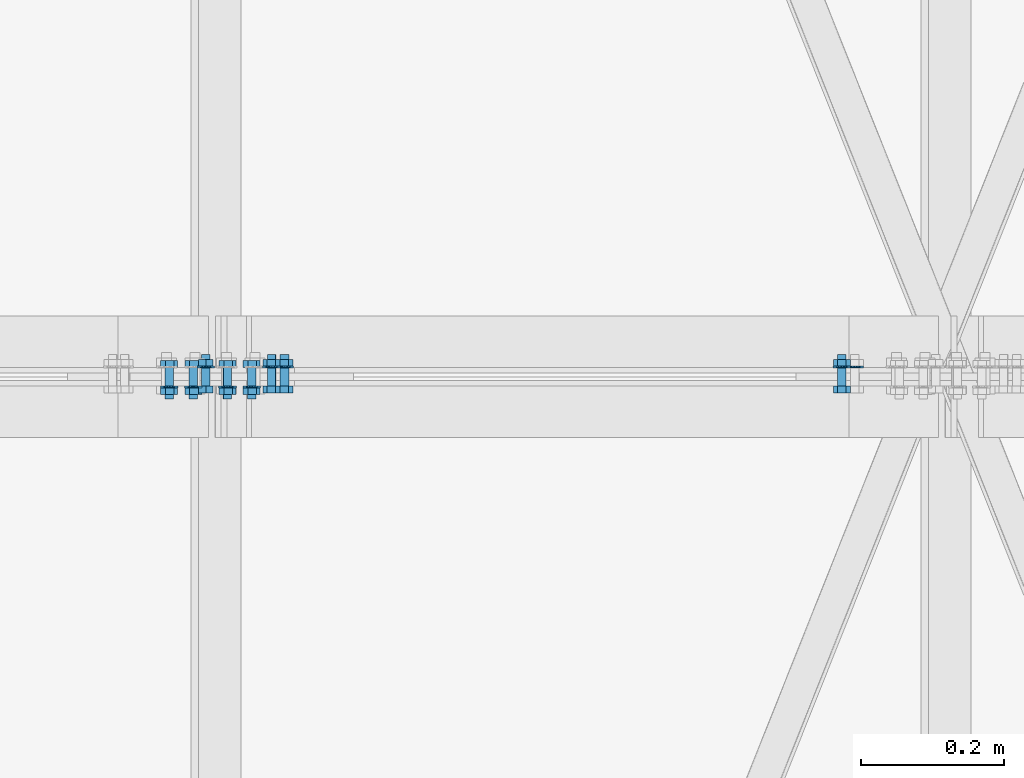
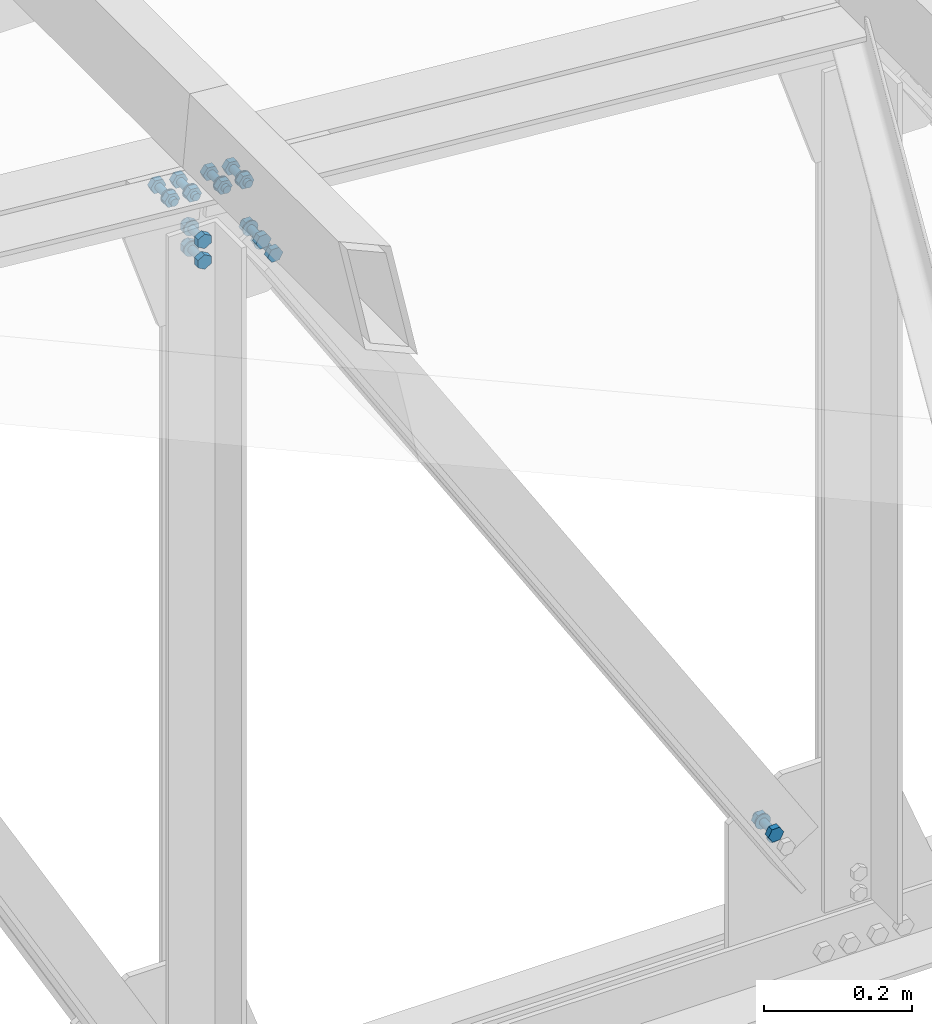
# One storey, part 149 of 251: 37 mechanical fasteners.
"""IFC4 building model written with IfcOpenShell, lengths in metres."""

from ifc_helpers import new_model, si_unit, frame, origin_with_axes, place, context, project, spatial, polyline, outline, extrude, type_object, element, save


model = new_model("IFC4")

# Units and contexts
model_context = context("Model", 3, precision=1e-05, world=origin_with_axes())
ifc_project = project(units=[si_unit("LENGTHUNIT", "METRE"), si_unit("AREAUNIT", "SQUARE_METRE"), si_unit("VOLUMEUNIT", "CUBIC_METRE"), si_unit("MASSUNIT", "GRAM", prefix="KILO"), si_unit("TIMEUNIT", "SECOND"), si_unit("PLANEANGLEUNIT", "RADIAN"), si_unit("SOLIDANGLEUNIT", "STERADIAN"), si_unit("THERMODYNAMICTEMPERATUREUNIT", "DEGREE_CELSIUS")], contexts=[model_context])

# Site, building, storey
placement_1 = place(None, origin_with_axes())
site = spatial("IfcSite", under=ifc_project, at=placement_1, Name="Italia", CompositionType="ELEMENT")
building = spatial("IfcBuilding", under=site, at=placement_1, Name="Deposito", CompositionType="ELEMENT")
storey = spatial("IfcBuildingStorey", under=building, at=placement_1, Name="Storey 0", CompositionType="ELEMENT", Elevation=0.0)

# Mechanical fasteners
mechanical_fastener_type_1 = type_object("IfcMechanicalFastenerType", Name="Reticolare 5", PredefinedType="BOLT")
placement_2 = place(placement_1, origin_with_axes())
mechanical_fastener_1_placement = place(placement_2, origin_with_axes())
element("IfcMechanicalFastener", 1, at=mechanical_fastener_1_placement, inside=storey, type_object=mechanical_fastener_type_1, Name="Reticolare 5", NominalDiameter=0.024, context=model_context, shape_type="SweptSolid", body=[
    extrude(outline(polyline([(0.0, 0.0), (-0.000409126, -0.00310564), (-0.00160789, -0.00600004), (-0.00351524, -0.00848532), (-0.00600052, -0.0103922), (-0.00889397, -0.011591), (-0.0120001, -0.0120001), (-0.0151062, -0.011591), (-0.0179996, -0.0103922), (-0.0204849, -0.00848532), (-0.0223923, -0.00600004), (-0.023591, -0.00310564), (-0.0240002, 0.0), (-0.023591, 0.00310564), (-0.0223923, 0.00600004), (-0.0204849, 0.00848532), (-0.0179996, 0.0103922), (-0.0151062, 0.011591), (-0.0120001, 0.0120001), (-0.00889397, 0.011591), (-0.00600052, 0.0103922), (-0.00351524, 0.00848532), (-0.00160789, 0.00600004), (-0.000409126, 0.00310564), (0.0, 0.0)])), frame((13.9145, 15.015, 5.20248), z_axis=(0.0, -1.0, 0.0), x_axis=(1.0, 0.0, 0.0)), (0.0, 0.0, 1.0), 0.00200081),
])
mechanical_fastener_type_2 = type_object("IfcMechanicalFastenerType", Name="Reticolare 5", PredefinedType="BOLT")
mechanical_fastener_2_placement = place(placement_2, origin_with_axes())
element("IfcMechanicalFastener", 2, at=mechanical_fastener_2_placement, inside=storey, type_object=mechanical_fastener_type_2, Name="Reticolare 5", NominalDiameter=0.0119994, context=model_context, shape_type="SweptSolid", body=[
    extrude(outline(polyline([(0.0, 0.0), (-0.00643444, 0.010129), (-0.000879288, 0.0207663), (0.0111094, 0.0212741), (0.0175438, 0.0111451), (0.0119896, 0.000508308), (0.0, 0.0)])), frame((13.8787, 14.987, 5.22054), z_axis=(0.0, -1.0, 0.0), x_axis=(1.0, 0.0, 0.0)), (0.0, 0.0, 1.0), 0.00960064),
])
mechanical_fastener_type_3 = type_object("IfcMechanicalFastenerType", Name="Reticolare 5", PredefinedType="BOLT")
mechanical_fastener_3_placement = place(placement_2, origin_with_axes())
element("IfcMechanicalFastener", 3, at=mechanical_fastener_3_placement, inside=storey, type_object=mechanical_fastener_type_3, Name="Reticolare 5", NominalDiameter=0.012, context=model_context, shape_type="SweptSolid", body=[
    extrude(outline(polyline([(0.0, 0.0), (-0.000204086, -0.00155306), (-0.000802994, -0.00299978), (-0.00175667, -0.00424242), (-0.00299931, -0.00519609), (-0.00444698, -0.00579548), (-0.00599957, -0.00600004), (-0.00755215, -0.00579548), (-0.00899982, -0.00519609), (-0.0102425, -0.00424242), (-0.0111961, -0.00299978), (-0.011795, -0.00155306), (-0.0119991, 0.0), (-0.011795, 0.00155306), (-0.0111961, 0.00299978), (-0.0102425, 0.00424242), (-0.00899982, 0.00519609), (-0.00755215, 0.00579548), (-0.00599957, 0.00600004), (-0.00444698, 0.00579548), (-0.00299931, 0.00519609), (-0.00175667, 0.00424242), (-0.000802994, 0.00299978), (-0.000204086, 0.00155306), (0.0, 0.0)])), frame((13.8903, 15.031, 5.23117), z_axis=(0.0, -1.0, 0.0), x_axis=(1.0, 0.0, 0.0)), (0.0, 0.0, 1.0), 0.0439997),
])
mechanical_fastener_type_4 = type_object("IfcMechanicalFastenerType", Name="Reticolare 5", PredefinedType="BOLT")
mechanical_fastener_4_placement = place(placement_2, origin_with_axes())
element("IfcMechanicalFastener", 4, at=mechanical_fastener_4_placement, inside=storey, type_object=mechanical_fastener_type_4, Name="Reticolare 5", NominalDiameter=0.0119994, context=model_context, shape_type="SweptSolid", body=[
    extrude(outline(polyline([(0.0, 0.0), (-0.00643444, 0.010129), (-0.000879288, 0.0207663), (0.0111094, 0.0212741), (0.0175438, 0.0111451), (0.0119896, 0.000508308), (0.0, 0.0)])), frame((13.8787, 15.0246, 5.22054), z_axis=(0.0, -1.0, 0.0), x_axis=(1.0, 0.0, 0.0)), (0.0, 0.0, 1.0), 0.00959969),
])
mechanical_fastener_type_5 = type_object("IfcMechanicalFastenerType", Name="Reticolare 5", PredefinedType="BOLT")
mechanical_fastener_5_placement = place(placement_2, origin_with_axes())
element("IfcMechanicalFastener", 5, at=mechanical_fastener_5_placement, inside=storey, type_object=mechanical_fastener_type_5, Name="Reticolare 5", NominalDiameter=0.024, context=model_context, shape_type="SweptSolid", body=[
    extrude(outline(polyline([(0.0, 0.0), (-0.000409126, -0.00310564), (-0.00160789, -0.00600004), (-0.00351524, -0.00848532), (-0.00600052, -0.0103922), (-0.00889397, -0.011591), (-0.0120001, -0.0120001), (-0.0151062, -0.011591), (-0.0179996, -0.0103922), (-0.0204849, -0.00848532), (-0.0223923, -0.00600004), (-0.023591, -0.00310564), (-0.0240002, 0.0), (-0.023591, 0.00310564), (-0.0223923, 0.00600004), (-0.0204849, 0.00848532), (-0.0179996, 0.0103922), (-0.0151062, 0.011591), (-0.0120001, 0.0120001), (-0.00889397, 0.011591), (-0.00600052, 0.0103922), (-0.00351524, 0.00848532), (-0.00160789, 0.00600004), (-0.000409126, 0.00310564), (0.0, 0.0)])), frame((13.8963, 15.015, 5.23117), z_axis=(0.0, -1.0, 0.0), x_axis=(1.0, 0.0, 0.0)), (0.0, 0.0, 1.0), 0.00200081),
])
mechanical_fastener_type_6 = type_object("IfcMechanicalFastenerType", Name="Reticolare 5", PredefinedType="BOLT")
mechanical_fastener_6_placement = place(placement_2, origin_with_axes())
element("IfcMechanicalFastener", 6, at=mechanical_fastener_6_placement, inside=storey, type_object=mechanical_fastener_type_6, Name="Reticolare 5", NominalDiameter=0.0119996, context=model_context, shape_type="SweptSolid", body=[
    extrude(outline(polyline([(0.0, 0.0), (0.0119572, 0.001019), (0.0188179, -0.00882626), (0.0137215, -0.0196905), (0.00176525, -0.0207095), (-0.00509548, -0.0108643), (0.0, 0.0)])), frame((13.0302, 15.013, 6.61092), z_axis=(0.0, 1.0, 0.0), x_axis=(-1.0, 0.0, 0.0)), (0.0, 0.0, 1.0), 0.00960064),
])
mechanical_fastener_type_7 = type_object("IfcMechanicalFastenerType", Name="Reticolare 5", PredefinedType="BOLT")
mechanical_fastener_7_placement = place(placement_2, origin_with_axes())
element("IfcMechanicalFastener", 7, at=mechanical_fastener_7_placement, inside=storey, type_object=mechanical_fastener_type_7, Name="Reticolare 5", NominalDiameter=0.012, context=model_context, shape_type="SweptSolid", body=[
    extrude(outline(polyline([(0.0, 0.0), (-0.000204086, -0.00155306), (-0.000802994, -0.00299978), (-0.00175667, -0.00424242), (-0.00299931, -0.00519609), (-0.00444698, -0.00579548), (-0.00599957, -0.00600004), (-0.00755215, -0.00579548), (-0.00899982, -0.00519609), (-0.0102425, -0.00424242), (-0.0111961, -0.00299978), (-0.011795, -0.00155306), (-0.0119991, 0.0), (-0.011795, 0.00155306), (-0.0111961, 0.00299978), (-0.0102425, 0.00424242), (-0.00899982, 0.00519609), (-0.00755215, 0.00579548), (-0.00599957, 0.00600004), (-0.00444698, 0.00579548), (-0.00299931, 0.00519609), (-0.00175667, 0.00424242), (-0.000802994, 0.00299978), (-0.000204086, 0.00155306), (0.0, 0.0)])), frame((13.0173, 14.969, 6.60108), z_axis=(0.0, 1.0, 0.0), x_axis=(-1.0, 0.0, 0.0)), (0.0, 0.0, 1.0), 0.0439997),
])
mechanical_fastener_type_8 = type_object("IfcMechanicalFastenerType", Name="Reticolare 5", PredefinedType="BOLT")
mechanical_fastener_8_placement = place(placement_2, origin_with_axes())
element("IfcMechanicalFastener", 8, at=mechanical_fastener_8_placement, inside=storey, type_object=mechanical_fastener_type_8, Name="Reticolare 5", NominalDiameter=0.0119996, context=model_context, shape_type="SweptSolid", body=[
    extrude(outline(polyline([(0.0, 0.0), (0.0119572, 0.001019), (0.0188179, -0.00882626), (0.0137215, -0.0196905), (0.00176525, -0.0207095), (-0.00509548, -0.0108643), (0.0, 0.0)])), frame((13.0302, 14.9754, 6.61092), z_axis=(0.0, 1.0, 0.0), x_axis=(-1.0, 0.0, 0.0)), (0.0, 0.0, 1.0), 0.00959969),
])
mechanical_fastener_type_9 = type_object("IfcMechanicalFastenerType", Name="Reticolare 5", PredefinedType="BOLT")
mechanical_fastener_9_placement = place(placement_2, origin_with_axes())
element("IfcMechanicalFastener", 9, at=mechanical_fastener_9_placement, inside=storey, type_object=mechanical_fastener_type_9, Name="Reticolare 5", NominalDiameter=0.024, context=model_context, shape_type="SweptSolid", body=[
    extrude(outline(polyline([(0.0, 0.0), (-0.000409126, -0.00310564), (-0.00160789, -0.00600004), (-0.00351524, -0.00848532), (-0.00600052, -0.0103922), (-0.00889397, -0.011591), (-0.0120001, -0.0120001), (-0.0151062, -0.011591), (-0.0179996, -0.0103922), (-0.0204849, -0.00848532), (-0.0223923, -0.00600004), (-0.023591, -0.00310564), (-0.0240002, 0.0), (-0.023591, 0.00310564), (-0.0223923, 0.00600004), (-0.0204849, 0.00848532), (-0.0179996, 0.0103922), (-0.0151062, 0.011591), (-0.0120001, 0.0120001), (-0.00889397, 0.011591), (-0.00600052, 0.0103922), (-0.00351524, 0.00848532), (-0.00160789, 0.00600004), (-0.000409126, 0.00310564), (0.0, 0.0)])), frame((13.0113, 14.985, 6.60108), z_axis=(0.0, 1.0, 0.0), x_axis=(-1.0, 0.0, 0.0)), (0.0, 0.0, 1.0), 0.00200081),
])
mechanical_fastener_type_10 = type_object("IfcMechanicalFastenerType", Name="Reticolare 5", PredefinedType="BOLT")
mechanical_fastener_10_placement = place(placement_2, origin_with_axes())
element("IfcMechanicalFastener", 10, at=mechanical_fastener_10_placement, inside=storey, type_object=mechanical_fastener_type_10, Name="Reticolare 5", NominalDiameter=0.0119996, context=model_context, shape_type="SweptSolid", body=[
    extrude(outline(polyline([(0.0, 0.0), (0.0119572, 0.001019), (0.0188179, -0.00882626), (0.0137215, -0.0196905), (0.00176525, -0.0207095), (-0.00509548, -0.0108643), (0.0, 0.0)])), frame((13.0641, 15.013, 6.60803), z_axis=(0.0, 1.0, 0.0), x_axis=(-1.0, 0.0, 0.0)), (0.0, 0.0, 1.0), 0.00960064),
])
mechanical_fastener_type_11 = type_object("IfcMechanicalFastenerType", Name="Reticolare 5", PredefinedType="BOLT")
mechanical_fastener_11_placement = place(placement_2, origin_with_axes())
element("IfcMechanicalFastener", 11, at=mechanical_fastener_11_placement, inside=storey, type_object=mechanical_fastener_type_11, Name="Reticolare 5", NominalDiameter=0.012, context=model_context, shape_type="SweptSolid", body=[
    extrude(outline(polyline([(0.0, 0.0), (-0.000204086, -0.00155306), (-0.000802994, -0.00299978), (-0.00175667, -0.00424242), (-0.00299931, -0.00519609), (-0.00444698, -0.00579548), (-0.00599957, -0.00600004), (-0.00755215, -0.00579548), (-0.00899982, -0.00519609), (-0.0102425, -0.00424242), (-0.0111961, -0.00299978), (-0.011795, -0.00155306), (-0.0119991, 0.0), (-0.011795, 0.00155306), (-0.0111961, 0.00299978), (-0.0102425, 0.00424242), (-0.00899982, 0.00519609), (-0.00755215, 0.00579548), (-0.00599957, 0.00600004), (-0.00444698, 0.00579548), (-0.00299931, 0.00519609), (-0.00175667, 0.00424242), (-0.000802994, 0.00299978), (-0.000204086, 0.00155306), (0.0, 0.0)])), frame((13.0512, 14.969, 6.59819), z_axis=(0.0, 1.0, 0.0), x_axis=(-1.0, 0.0, 0.0)), (0.0, 0.0, 1.0), 0.0439997),
])
mechanical_fastener_type_12 = type_object("IfcMechanicalFastenerType", Name="Reticolare 5", PredefinedType="BOLT")
mechanical_fastener_12_placement = place(placement_2, origin_with_axes())
element("IfcMechanicalFastener", 12, at=mechanical_fastener_12_placement, inside=storey, type_object=mechanical_fastener_type_12, Name="Reticolare 5", NominalDiameter=0.0119996, context=model_context, shape_type="SweptSolid", body=[
    extrude(outline(polyline([(0.0, 0.0), (0.0119572, 0.001019), (0.0188179, -0.00882626), (0.0137215, -0.0196905), (0.00176525, -0.0207095), (-0.00509548, -0.0108643), (0.0, 0.0)])), frame((13.0641, 14.9754, 6.60803), z_axis=(0.0, 1.0, 0.0), x_axis=(-1.0, 0.0, 0.0)), (0.0, 0.0, 1.0), 0.00959969),
])
mechanical_fastener_type_13 = type_object("IfcMechanicalFastenerType", Name="Reticolare 5", PredefinedType="BOLT")
mechanical_fastener_13_placement = place(placement_2, origin_with_axes())
element("IfcMechanicalFastener", 13, at=mechanical_fastener_13_placement, inside=storey, type_object=mechanical_fastener_type_13, Name="Reticolare 5", NominalDiameter=0.024, context=model_context, shape_type="SweptSolid", body=[
    extrude(outline(polyline([(0.0, 0.0), (-0.000409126, -0.00310564), (-0.00160789, -0.00600004), (-0.00351524, -0.00848532), (-0.00600052, -0.0103922), (-0.00889397, -0.011591), (-0.0120001, -0.0120001), (-0.0151062, -0.011591), (-0.0179996, -0.0103922), (-0.0204849, -0.00848532), (-0.0223923, -0.00600004), (-0.023591, -0.00310564), (-0.0240002, 0.0), (-0.023591, 0.00310564), (-0.0223923, 0.00600004), (-0.0204849, 0.00848532), (-0.0179996, 0.0103922), (-0.0151062, 0.011591), (-0.0120001, 0.0120001), (-0.00889397, 0.011591), (-0.00600052, 0.0103922), (-0.00351524, 0.00848532), (-0.00160789, 0.00600004), (-0.000409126, 0.00310564), (0.0, 0.0)])), frame((13.0452, 14.985, 6.59819), z_axis=(0.0, 1.0, 0.0), x_axis=(-1.0, 0.0, 0.0)), (0.0, 0.0, 1.0), 0.00200081),
])
mechanical_fastener_type_14 = type_object("IfcMechanicalFastenerType", Name="Reticolare 5", PredefinedType="BOLT")
mechanical_fastener_14_placement = place(placement_2, origin_with_axes())
element("IfcMechanicalFastener", 14, at=mechanical_fastener_14_placement, inside=storey, type_object=mechanical_fastener_type_14, Name="Reticolare 5", NominalDiameter=0.0119996, context=model_context, shape_type="SweptSolid", body=[
    extrude(outline(polyline([(0.0, 0.0), (0.0119524, 0.00107431), (0.018858, -0.00873947), (0.013813, -0.0196271), (0.00186157, -0.0207014), (-0.00504494, -0.0108881), (0.0, 0.0)])), frame((12.9824, 15.013, 6.61508), z_axis=(0.0, 1.0, 0.0), x_axis=(-1.0, 0.0, 0.0)), (0.0, 0.0, 1.0), 0.00960064),
])
mechanical_fastener_type_15 = type_object("IfcMechanicalFastenerType", Name="Reticolare 5", PredefinedType="BOLT")
mechanical_fastener_15_placement = place(placement_2, origin_with_axes())
element("IfcMechanicalFastener", 15, at=mechanical_fastener_15_placement, inside=storey, type_object=mechanical_fastener_type_15, Name="Reticolare 5", NominalDiameter=0.012, context=model_context, shape_type="SweptSolid", body=[
    extrude(outline(polyline([(0.0, 0.0), (-0.000204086, -0.00155306), (-0.000802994, -0.00299978), (-0.00175667, -0.00424242), (-0.00299931, -0.00519609), (-0.00444698, -0.00579548), (-0.00599957, -0.00600004), (-0.00755215, -0.00579548), (-0.00899982, -0.00519609), (-0.0102425, -0.00424242), (-0.0111961, -0.00299978), (-0.011795, -0.00155306), (-0.0119991, 0.0), (-0.011795, 0.00155306), (-0.0111961, 0.00299978), (-0.0102425, 0.00424242), (-0.00899982, 0.00519609), (-0.00755215, 0.00579548), (-0.00599957, 0.00600004), (-0.00444698, 0.00579548), (-0.00299931, 0.00519609), (-0.00175667, 0.00424242), (-0.000802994, 0.00299978), (-0.000204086, 0.00155306), (0.0, 0.0)])), frame((12.9694, 14.969, 6.60527), z_axis=(0.0, 1.0, 0.0), x_axis=(-1.0, 0.0, 0.0)), (0.0, 0.0, 1.0), 0.0439997),
])
mechanical_fastener_type_16 = type_object("IfcMechanicalFastenerType", Name="Reticolare 5", PredefinedType="BOLT")
mechanical_fastener_16_placement = place(placement_2, origin_with_axes())
element("IfcMechanicalFastener", 16, at=mechanical_fastener_16_placement, inside=storey, type_object=mechanical_fastener_type_16, Name="Reticolare 5", NominalDiameter=0.0119996, context=model_context, shape_type="SweptSolid", body=[
    extrude(outline(polyline([(0.0, 0.0), (0.0119524, 0.00107431), (0.018858, -0.00873947), (0.013813, -0.0196271), (0.00186157, -0.0207014), (-0.00504494, -0.0108881), (0.0, 0.0)])), frame((12.9824, 14.9754, 6.61508), z_axis=(0.0, 1.0, 0.0), x_axis=(-1.0, 0.0, 0.0)), (0.0, 0.0, 1.0), 0.00959969),
])
mechanical_fastener_type_17 = type_object("IfcMechanicalFastenerType", Name="Reticolare 5", PredefinedType="BOLT")
mechanical_fastener_17_placement = place(placement_2, origin_with_axes())
element("IfcMechanicalFastener", 17, at=mechanical_fastener_17_placement, inside=storey, type_object=mechanical_fastener_type_17, Name="Reticolare 5", NominalDiameter=0.024, context=model_context, shape_type="SweptSolid", body=[
    extrude(outline(polyline([(0.0, 0.0), (-0.000409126, -0.00310564), (-0.00160789, -0.00600004), (-0.00351524, -0.00848532), (-0.00600052, -0.0103922), (-0.00889397, -0.011591), (-0.0120001, -0.0120001), (-0.0151062, -0.011591), (-0.0179996, -0.0103922), (-0.0204849, -0.00848532), (-0.0223923, -0.00600004), (-0.023591, -0.00310564), (-0.0240002, 0.0), (-0.023591, 0.00310564), (-0.0223923, 0.00600004), (-0.0204849, 0.00848532), (-0.0179996, 0.0103922), (-0.0151062, 0.011591), (-0.0120001, 0.0120001), (-0.00889397, 0.011591), (-0.00600052, 0.0103922), (-0.00351524, 0.00848532), (-0.00160789, 0.00600004), (-0.000409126, 0.00310564), (0.0, 0.0)])), frame((12.9634, 14.985, 6.60527), z_axis=(0.0, 1.0, 0.0), x_axis=(-1.0, 0.0, 0.0)), (0.0, 0.0, 1.0), 0.00200081),
])
mechanical_fastener_type_18 = type_object("IfcMechanicalFastenerType", Name="Reticolare 5", PredefinedType="BOLT")
mechanical_fastener_18_placement = place(placement_2, origin_with_axes())
element("IfcMechanicalFastener", 18, at=mechanical_fastener_18_placement, inside=storey, type_object=mechanical_fastener_type_18, Name="Reticolare 5", NominalDiameter=0.0119996, context=model_context, shape_type="SweptSolid", body=[
    extrude(outline(polyline([(0.0, 0.0), (0.0119514, 0.00107479), (0.018858, -0.00873899), (0.0138121, -0.0196266), (0.00186062, -0.0207009), (-0.00504589, -0.0108876), (0.0, 0.0)])), frame((12.9485, 15.013, 6.61813), z_axis=(0.0, 1.0, 0.0), x_axis=(-1.0, 0.0, 0.0)), (0.0, 0.0, 1.0), 0.00960064),
])
mechanical_fastener_type_19 = type_object("IfcMechanicalFastenerType", Name="Reticolare 5", PredefinedType="BOLT")
mechanical_fastener_19_placement = place(placement_2, origin_with_axes())
element("IfcMechanicalFastener", 19, at=mechanical_fastener_19_placement, inside=storey, type_object=mechanical_fastener_type_19, Name="Reticolare 5", NominalDiameter=0.012, context=model_context, shape_type="SweptSolid", body=[
    extrude(outline(polyline([(0.0, 0.0), (-0.000204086, -0.00155306), (-0.000802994, -0.00299978), (-0.00175667, -0.00424242), (-0.00299931, -0.00519609), (-0.00444698, -0.00579548), (-0.00599957, -0.00600004), (-0.00755215, -0.00579548), (-0.00899982, -0.00519609), (-0.0102425, -0.00424242), (-0.0111961, -0.00299978), (-0.011795, -0.00155306), (-0.0119991, 0.0), (-0.011795, 0.00155306), (-0.0111961, 0.00299978), (-0.0102425, 0.00424242), (-0.00899982, 0.00519609), (-0.00755215, 0.00579548), (-0.00599957, 0.00600004), (-0.00444698, 0.00579548), (-0.00299931, 0.00519609), (-0.00175667, 0.00424242), (-0.000802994, 0.00299978), (-0.000204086, 0.00155306), (0.0, 0.0)])), frame((12.9356, 14.969, 6.60831), z_axis=(0.0, 1.0, 0.0), x_axis=(-1.0, 0.0, 0.0)), (0.0, 0.0, 1.0), 0.0439997),
])
mechanical_fastener_type_20 = type_object("IfcMechanicalFastenerType", Name="Reticolare 5", PredefinedType="BOLT")
mechanical_fastener_20_placement = place(placement_2, origin_with_axes())
element("IfcMechanicalFastener", 20, at=mechanical_fastener_20_placement, inside=storey, type_object=mechanical_fastener_type_20, Name="Reticolare 5", NominalDiameter=0.0119996, context=model_context, shape_type="SweptSolid", body=[
    extrude(outline(polyline([(0.0, 0.0), (0.0119514, 0.00107479), (0.018858, -0.00873899), (0.0138121, -0.0196266), (0.00186062, -0.0207009), (-0.00504589, -0.0108876), (0.0, 0.0)])), frame((12.9485, 14.9754, 6.61813), z_axis=(0.0, 1.0, 0.0), x_axis=(-1.0, 0.0, 0.0)), (0.0, 0.0, 1.0), 0.00959969),
])
mechanical_fastener_type_21 = type_object("IfcMechanicalFastenerType", Name="Reticolare 5", PredefinedType="BOLT")
mechanical_fastener_21_placement = place(placement_2, origin_with_axes())
element("IfcMechanicalFastener", 21, at=mechanical_fastener_21_placement, inside=storey, type_object=mechanical_fastener_type_21, Name="Reticolare 5", NominalDiameter=0.024, context=model_context, shape_type="SweptSolid", body=[
    extrude(outline(polyline([(0.0, 0.0), (-0.000409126, -0.00310564), (-0.00160789, -0.00600004), (-0.00351524, -0.00848532), (-0.00600052, -0.0103922), (-0.00889397, -0.011591), (-0.0120001, -0.0120001), (-0.0151062, -0.011591), (-0.0179996, -0.0103922), (-0.0204849, -0.00848532), (-0.0223923, -0.00600004), (-0.023591, -0.00310564), (-0.0240002, 0.0), (-0.023591, 0.00310564), (-0.0223923, 0.00600004), (-0.0204849, 0.00848532), (-0.0179996, 0.0103922), (-0.0151062, 0.011591), (-0.0120001, 0.0120001), (-0.00889397, 0.011591), (-0.00600052, 0.0103922), (-0.00351524, 0.00848532), (-0.00160789, 0.00600004), (-0.000409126, 0.00310564), (0.0, 0.0)])), frame((12.9296, 14.985, 6.60831), z_axis=(0.0, 1.0, 0.0), x_axis=(-1.0, 0.0, 0.0)), (0.0, 0.0, 1.0), 0.00200081),
])
mechanical_fastener_type_22 = type_object("IfcMechanicalFastenerType", Name="Reticolare 5", PredefinedType="BOLT")
mechanical_fastener_22_placement = place(placement_2, origin_with_axes())
element("IfcMechanicalFastener", 22, at=mechanical_fastener_22_placement, inside=storey, type_object=mechanical_fastener_type_22, Name="Reticolare 5", NominalDiameter=0.0119999, context=model_context, shape_type="SweptSolid", body=[
    extrude(outline(polyline([(0.0, 0.0), (0.0, -0.0120001), (-0.0103922, -0.0180001), (-0.0207844, -0.0120001), (-0.0207844, 0.0), (-0.0103922, 0.00600004), (0.0, 0.0)])), frame((13.0034, 14.987, 6.52739), z_axis=(0.0, -1.0, 0.0), x_axis=(1.0, 0.0, 0.0)), (0.0, 0.0, 1.0), 0.00960064),
])
mechanical_fastener_type_23 = type_object("IfcMechanicalFastenerType", Name="Reticolare 5", PredefinedType="BOLT")
mechanical_fastener_23_placement = place(placement_2, origin_with_axes())
element("IfcMechanicalFastener", 23, at=mechanical_fastener_23_placement, inside=storey, type_object=mechanical_fastener_type_23, Name="Reticolare 5", NominalDiameter=0.012, context=model_context, shape_type="SweptSolid", body=[
    extrude(outline(polyline([(0.0, 0.0), (-0.000204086, -0.00155306), (-0.000802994, -0.00299978), (-0.00175667, -0.00424242), (-0.00299931, -0.00519609), (-0.00444698, -0.00579548), (-0.00599957, -0.00600004), (-0.00755215, -0.00579548), (-0.00899982, -0.00519609), (-0.0102425, -0.00424242), (-0.0111961, -0.00299978), (-0.011795, -0.00155306), (-0.0119991, 0.0), (-0.011795, 0.00155306), (-0.0111961, 0.00299978), (-0.0102425, 0.00424242), (-0.00899982, 0.00519609), (-0.00755215, 0.00579548), (-0.00599957, 0.00600004), (-0.00444698, 0.00579548), (-0.00299931, 0.00519609), (-0.00175667, 0.00424242), (-0.000802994, 0.00299978), (-0.000204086, 0.00155306), (0.0, 0.0)])), frame((12.999, 15.031, 6.52139), z_axis=(0.0, -1.0, 0.0), x_axis=(1.0, 0.0, 0.0)), (0.0, 0.0, 1.0), 0.0439997),
])
mechanical_fastener_type_24 = type_object("IfcMechanicalFastenerType", Name="Reticolare 5", PredefinedType="BOLT")
mechanical_fastener_24_placement = place(placement_2, origin_with_axes())
element("IfcMechanicalFastener", 24, at=mechanical_fastener_24_placement, inside=storey, type_object=mechanical_fastener_type_24, Name="Reticolare 5", NominalDiameter=0.0119999, context=model_context, shape_type="SweptSolid", body=[
    extrude(outline(polyline([(0.0, 0.0), (0.0, -0.0120001), (-0.0103922, -0.0180001), (-0.0207844, -0.0120001), (-0.0207844, 0.0), (-0.0103922, 0.00600004), (0.0, 0.0)])), frame((13.0034, 15.0246, 6.52739), z_axis=(0.0, -1.0, 0.0), x_axis=(1.0, 0.0, 0.0)), (0.0, 0.0, 1.0), 0.00959969),
])
mechanical_fastener_type_25 = type_object("IfcMechanicalFastenerType", Name="Reticolare 5", PredefinedType="BOLT")
mechanical_fastener_25_placement = place(placement_2, origin_with_axes())
element("IfcMechanicalFastener", 25, at=mechanical_fastener_25_placement, inside=storey, type_object=mechanical_fastener_type_25, Name="Reticolare 5", NominalDiameter=0.024, context=model_context, shape_type="SweptSolid", body=[
    extrude(outline(polyline([(0.0, 0.0), (-0.000409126, -0.00310564), (-0.00160789, -0.00600004), (-0.00351524, -0.00848532), (-0.00600052, -0.0103922), (-0.00889397, -0.011591), (-0.0120001, -0.0120001), (-0.0151062, -0.011591), (-0.0179996, -0.0103922), (-0.0204849, -0.00848532), (-0.0223923, -0.00600004), (-0.023591, -0.00310564), (-0.0240002, 0.0), (-0.023591, 0.00310564), (-0.0223923, 0.00600004), (-0.0204849, 0.00848532), (-0.0179996, 0.0103922), (-0.0151062, 0.011591), (-0.0120001, 0.0120001), (-0.00889397, 0.011591), (-0.00600052, 0.0103922), (-0.00351524, 0.00848532), (-0.00160789, 0.00600004), (-0.000409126, 0.00310564), (0.0, 0.0)])), frame((13.005, 15.015, 6.52139), z_axis=(0.0, -1.0, 0.0), x_axis=(1.0, 0.0, 0.0)), (0.0, 0.0, 1.0), 0.00200081),
])
mechanical_fastener_type_26 = type_object("IfcMechanicalFastenerType", Name="Reticolare 5", PredefinedType="BOLT")
mechanical_fastener_26_placement = place(placement_2, origin_with_axes())
element("IfcMechanicalFastener", 26, at=mechanical_fastener_26_placement, inside=storey, type_object=mechanical_fastener_type_26, Name="Reticolare 5", NominalDiameter=0.0119999, context=model_context, shape_type="SweptSolid", body=[
    extrude(outline(polyline([(0.0, 0.0), (0.0, -0.0120001), (-0.0103922, -0.0180001), (-0.0207844, -0.0120001), (-0.0207844, 0.0), (-0.0103922, 0.00600004), (0.0, 0.0)])), frame((13.0034, 14.987, 6.49339), z_axis=(0.0, -1.0, 0.0), x_axis=(1.0, 0.0, 0.0)), (0.0, 0.0, 1.0), 0.00960064),
])
mechanical_fastener_type_27 = type_object("IfcMechanicalFastenerType", Name="Reticolare 5", PredefinedType="BOLT")
mechanical_fastener_27_placement = place(placement_2, origin_with_axes())
element("IfcMechanicalFastener", 27, at=mechanical_fastener_27_placement, inside=storey, type_object=mechanical_fastener_type_27, Name="Reticolare 5", NominalDiameter=0.012, context=model_context, shape_type="SweptSolid", body=[
    extrude(outline(polyline([(0.0, 0.0), (-0.000204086, -0.00155306), (-0.000802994, -0.00299978), (-0.00175667, -0.00424242), (-0.00299931, -0.00519609), (-0.00444698, -0.00579548), (-0.00599957, -0.00600004), (-0.00755215, -0.00579548), (-0.00899982, -0.00519609), (-0.0102425, -0.00424242), (-0.0111961, -0.00299978), (-0.011795, -0.00155306), (-0.0119991, 0.0), (-0.011795, 0.00155306), (-0.0111961, 0.00299978), (-0.0102425, 0.00424242), (-0.00899982, 0.00519609), (-0.00755215, 0.00579548), (-0.00599957, 0.00600004), (-0.00444698, 0.00579548), (-0.00299931, 0.00519609), (-0.00175667, 0.00424242), (-0.000802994, 0.00299978), (-0.000204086, 0.00155306), (0.0, 0.0)])), frame((12.999, 15.031, 6.48739), z_axis=(0.0, -1.0, 0.0), x_axis=(1.0, 0.0, 0.0)), (0.0, 0.0, 1.0), 0.0439997),
])
mechanical_fastener_type_28 = type_object("IfcMechanicalFastenerType", Name="Reticolare 5", PredefinedType="BOLT")
mechanical_fastener_28_placement = place(placement_2, origin_with_axes())
element("IfcMechanicalFastener", 28, at=mechanical_fastener_28_placement, inside=storey, type_object=mechanical_fastener_type_28, Name="Reticolare 5", NominalDiameter=0.0119999, context=model_context, shape_type="SweptSolid", body=[
    extrude(outline(polyline([(0.0, 0.0), (0.0, -0.0120001), (-0.0103922, -0.0180001), (-0.0207844, -0.0120001), (-0.0207844, 0.0), (-0.0103922, 0.00600004), (0.0, 0.0)])), frame((13.0034, 15.0246, 6.49339), z_axis=(0.0, -1.0, 0.0), x_axis=(1.0, 0.0, 0.0)), (0.0, 0.0, 1.0), 0.00959969),
])
mechanical_fastener_type_29 = type_object("IfcMechanicalFastenerType", Name="Reticolare 5", PredefinedType="BOLT")
mechanical_fastener_29_placement = place(placement_2, origin_with_axes())
element("IfcMechanicalFastener", 29, at=mechanical_fastener_29_placement, inside=storey, type_object=mechanical_fastener_type_29, Name="Reticolare 5", NominalDiameter=0.024, context=model_context, shape_type="SweptSolid", body=[
    extrude(outline(polyline([(0.0, 0.0), (-0.000409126, -0.00310564), (-0.00160789, -0.00600004), (-0.00351524, -0.00848532), (-0.00600052, -0.0103922), (-0.00889397, -0.011591), (-0.0120001, -0.0120001), (-0.0151062, -0.011591), (-0.0179996, -0.0103922), (-0.0204849, -0.00848532), (-0.0223923, -0.00600004), (-0.023591, -0.00310564), (-0.0240002, 0.0), (-0.023591, 0.00310564), (-0.0223923, 0.00600004), (-0.0204849, 0.00848532), (-0.0179996, 0.0103922), (-0.0151062, 0.011591), (-0.0120001, 0.0120001), (-0.00889397, 0.011591), (-0.00600052, 0.0103922), (-0.00351524, 0.00848532), (-0.00160789, 0.00600004), (-0.000409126, 0.00310564), (0.0, 0.0)])), frame((13.005, 15.015, 6.48739), z_axis=(0.0, -1.0, 0.0), x_axis=(1.0, 0.0, 0.0)), (0.0, 0.0, 1.0), 0.00200081),
])
mechanical_fastener_type_30 = type_object("IfcMechanicalFastenerType", Name="Reticolare 5", PredefinedType="BOLT")
mechanical_fastener_30_placement = place(placement_2, origin_with_axes())
element("IfcMechanicalFastener", 30, at=mechanical_fastener_30_placement, inside=storey, type_object=mechanical_fastener_type_30, Name="Reticolare 5", NominalDiameter=0.0119996, context=model_context, shape_type="SweptSolid", body=[
    extrude(outline(polyline([(0.0, 0.0), (-0.00643444, 0.010129), (-0.000880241, 0.0207658), (0.0111094, 0.0212741), (0.0175438, 0.0111451), (0.0119896, 0.000507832), (0.0, 0.0)])), frame((13.0795, 14.987, 6.47855), z_axis=(0.0, -1.0, 0.0), x_axis=(1.0, 0.0, 0.0)), (0.0, 0.0, 1.0), 0.00960064),
])
mechanical_fastener_type_31 = type_object("IfcMechanicalFastenerType", Name="Reticolare 5", PredefinedType="BOLT")
mechanical_fastener_31_placement = place(placement_2, origin_with_axes())
element("IfcMechanicalFastener", 31, at=mechanical_fastener_31_placement, inside=storey, type_object=mechanical_fastener_type_31, Name="Reticolare 5", NominalDiameter=0.012, context=model_context, shape_type="SweptSolid", body=[
    extrude(outline(polyline([(0.0, 0.0), (-0.000204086, -0.00155306), (-0.000802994, -0.00299978), (-0.00175667, -0.00424242), (-0.00299931, -0.00519609), (-0.00444698, -0.00579548), (-0.00599957, -0.00600004), (-0.00755215, -0.00579548), (-0.00899982, -0.00519609), (-0.0102425, -0.00424242), (-0.0111961, -0.00299978), (-0.011795, -0.00155306), (-0.0119991, 0.0), (-0.011795, 0.00155306), (-0.0111961, 0.00299978), (-0.0102425, 0.00424242), (-0.00899982, 0.00519609), (-0.00755215, 0.00579548), (-0.00599957, 0.00600004), (-0.00444698, 0.00579548), (-0.00299931, 0.00519609), (-0.00175667, 0.00424242), (-0.000802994, 0.00299978), (-0.000204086, 0.00155306), (0.0, 0.0)])), frame((13.0911, 15.031, 6.48919), z_axis=(0.0, -1.0, 0.0), x_axis=(1.0, 0.0, 0.0)), (0.0, 0.0, 1.0), 0.0439997),
])
mechanical_fastener_type_32 = type_object("IfcMechanicalFastenerType", Name="Reticolare 5", PredefinedType="BOLT")
mechanical_fastener_32_placement = place(placement_2, origin_with_axes())
element("IfcMechanicalFastener", 32, at=mechanical_fastener_32_placement, inside=storey, type_object=mechanical_fastener_type_32, Name="Reticolare 5", NominalDiameter=0.0119996, context=model_context, shape_type="SweptSolid", body=[
    extrude(outline(polyline([(0.0, 0.0), (-0.00643444, 0.010129), (-0.000880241, 0.0207658), (0.0111094, 0.0212741), (0.0175438, 0.0111451), (0.0119896, 0.000507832), (0.0, 0.0)])), frame((13.0795, 15.0246, 6.47855), z_axis=(0.0, -1.0, 0.0), x_axis=(1.0, 0.0, 0.0)), (0.0, 0.0, 1.0), 0.00959969),
])
mechanical_fastener_type_33 = type_object("IfcMechanicalFastenerType", Name="Reticolare 5", PredefinedType="BOLT")
mechanical_fastener_33_placement = place(placement_2, origin_with_axes())
element("IfcMechanicalFastener", 33, at=mechanical_fastener_33_placement, inside=storey, type_object=mechanical_fastener_type_33, Name="Reticolare 5", NominalDiameter=0.024, context=model_context, shape_type="SweptSolid", body=[
    extrude(outline(polyline([(0.0, 0.0), (-0.000409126, -0.00310564), (-0.00160789, -0.00600004), (-0.00351524, -0.00848532), (-0.00600052, -0.0103922), (-0.00889397, -0.011591), (-0.0120001, -0.0120001), (-0.0151062, -0.011591), (-0.0179996, -0.0103922), (-0.0204849, -0.00848532), (-0.0223923, -0.00600004), (-0.023591, -0.00310564), (-0.0240002, 0.0), (-0.023591, 0.00310564), (-0.0223923, 0.00600004), (-0.0204849, 0.00848532), (-0.0179996, 0.0103922), (-0.0151062, 0.011591), (-0.0120001, 0.0120001), (-0.00889397, 0.011591), (-0.00600052, 0.0103922), (-0.00351524, 0.00848532), (-0.00160789, 0.00600004), (-0.000409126, 0.00310564), (0.0, 0.0)])), frame((13.0971, 15.015, 6.48919), z_axis=(0.0, -1.0, 0.0), x_axis=(1.0, 0.0, 0.0)), (0.0, 0.0, 1.0), 0.00200081),
])
mechanical_fastener_type_34 = type_object("IfcMechanicalFastenerType", Name="Reticolare 5", PredefinedType="BOLT")
mechanical_fastener_34_placement = place(placement_2, origin_with_axes())
element("IfcMechanicalFastener", 34, at=mechanical_fastener_34_placement, inside=storey, type_object=mechanical_fastener_type_34, Name="Reticolare 5", NominalDiameter=0.0119996, context=model_context, shape_type="SweptSolid", body=[
    extrude(outline(polyline([(0.0, 0.0), (-0.00643444, 0.010129), (-0.000880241, 0.0207663), (0.0111094, 0.0212741), (0.0175438, 0.0111451), (0.0119896, 0.000508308), (0.0, 0.0)])), frame((13.0978, 14.987, 6.44985), z_axis=(0.0, -1.0, 0.0), x_axis=(1.0, 0.0, 0.0)), (0.0, 0.0, 1.0), 0.00960064),
])
mechanical_fastener_type_35 = type_object("IfcMechanicalFastenerType", Name="Reticolare 5", PredefinedType="BOLT")
mechanical_fastener_35_placement = place(placement_2, origin_with_axes())
element("IfcMechanicalFastener", 35, at=mechanical_fastener_35_placement, inside=storey, type_object=mechanical_fastener_type_35, Name="Reticolare 5", NominalDiameter=0.012, context=model_context, shape_type="SweptSolid", body=[
    extrude(outline(polyline([(0.0, 0.0), (-0.000204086, -0.00155306), (-0.000802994, -0.00299978), (-0.00175667, -0.00424242), (-0.00299931, -0.00519609), (-0.00444698, -0.00579548), (-0.00599957, -0.00600004), (-0.00755215, -0.00579548), (-0.00899982, -0.00519609), (-0.0102425, -0.00424242), (-0.0111961, -0.00299978), (-0.011795, -0.00155306), (-0.0119991, 0.0), (-0.011795, 0.00155306), (-0.0111961, 0.00299978), (-0.0102425, 0.00424242), (-0.00899982, 0.00519609), (-0.00755215, 0.00579548), (-0.00599957, 0.00600004), (-0.00444698, 0.00579548), (-0.00299931, 0.00519609), (-0.00175667, 0.00424242), (-0.000802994, 0.00299978), (-0.000204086, 0.00155306), (0.0, 0.0)])), frame((13.1093, 15.031, 6.46049), z_axis=(0.0, -1.0, 0.0), x_axis=(1.0, 0.0, 0.0)), (0.0, 0.0, 1.0), 0.0439997),
])
mechanical_fastener_type_36 = type_object("IfcMechanicalFastenerType", Name="Reticolare 5", PredefinedType="BOLT")
mechanical_fastener_36_placement = place(placement_2, origin_with_axes())
element("IfcMechanicalFastener", 36, at=mechanical_fastener_36_placement, inside=storey, type_object=mechanical_fastener_type_36, Name="Reticolare 5", NominalDiameter=0.0119996, context=model_context, shape_type="SweptSolid", body=[
    extrude(outline(polyline([(0.0, 0.0), (-0.00643444, 0.010129), (-0.000880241, 0.0207663), (0.0111094, 0.0212741), (0.0175438, 0.0111451), (0.0119896, 0.000508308), (0.0, 0.0)])), frame((13.0978, 15.0246, 6.44985), z_axis=(0.0, -1.0, 0.0), x_axis=(1.0, 0.0, 0.0)), (0.0, 0.0, 1.0), 0.00959969),
])
mechanical_fastener_type_37 = type_object("IfcMechanicalFastenerType", Name="Reticolare 5", PredefinedType="BOLT")
mechanical_fastener_37_placement = place(placement_2, origin_with_axes())
element("IfcMechanicalFastener", 37, at=mechanical_fastener_37_placement, inside=storey, type_object=mechanical_fastener_type_37, Name="Reticolare 5", NominalDiameter=0.024, context=model_context, shape_type="SweptSolid", body=[
    extrude(outline(polyline([(0.0, 0.0), (-0.000409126, -0.00310564), (-0.00160789, -0.00600004), (-0.00351524, -0.00848532), (-0.00600052, -0.0103922), (-0.00889397, -0.011591), (-0.0120001, -0.0120001), (-0.0151062, -0.011591), (-0.0179996, -0.0103922), (-0.0204849, -0.00848532), (-0.0223923, -0.00600004), (-0.023591, -0.00310564), (-0.0240002, 0.0), (-0.023591, 0.00310564), (-0.0223923, 0.00600004), (-0.0204849, 0.00848532), (-0.0179996, 0.0103922), (-0.0151062, 0.011591), (-0.0120001, 0.0120001), (-0.00889397, 0.011591), (-0.00600052, 0.0103922), (-0.00351524, 0.00848532), (-0.00160789, 0.00600004), (-0.000409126, 0.00310564), (0.0, 0.0)])), frame((13.1153, 15.015, 6.46049), z_axis=(0.0, -1.0, 0.0), x_axis=(1.0, 0.0, 0.0)), (0.0, 0.0, 1.0), 0.00200081),
])

save(model, "model.ifc")
